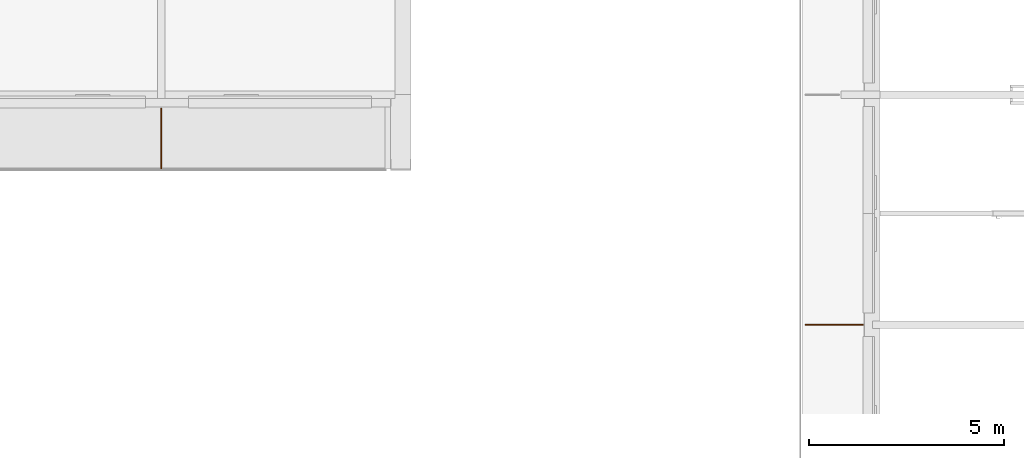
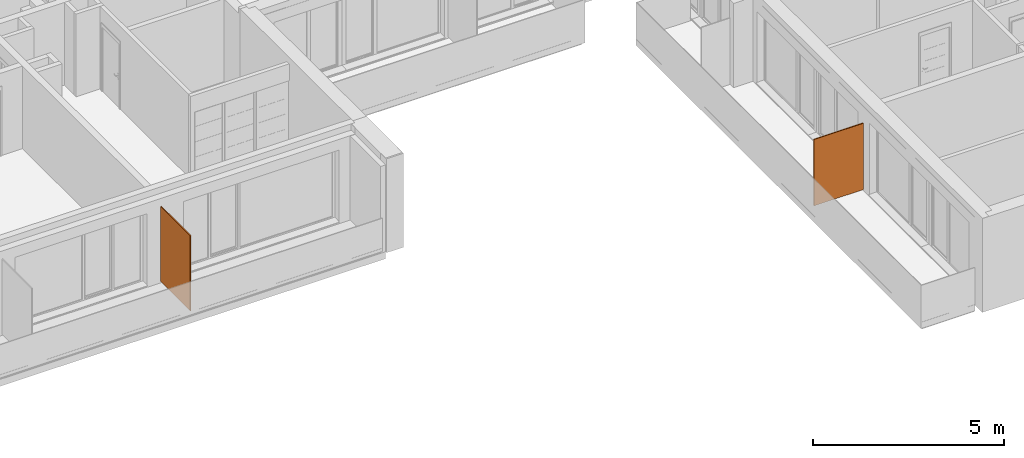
# One storey, part 17 of 66: 2 proxies.
"""IFC2X3 building model written with IfcOpenShell, lengths in millimetres."""

from ifc_helpers import new_model, entity, si_unit, converted_unit, derived_unit, money_unit, direction, frame, origin_with_axes, place, context, subcontext, project, spatial, polyline, outline, extrude, material, type_object, element, save


model = new_model("IFC2X3")

# Units and contexts
model_context = context("Model", 3, precision=0.01, world=origin_with_axes(), true_north=direction((0.34421633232, 0.938890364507)))
body_context = subcontext(model_context, "Body", "Model", "MODEL_VIEW")
ifc_project = project(units=[si_unit("LENGTHUNIT", "METRE", prefix="MILLI"), si_unit("AREAUNIT", "SQUARE_METRE"), si_unit("VOLUMEUNIT", "CUBIC_METRE"), converted_unit("PLANEANGLEUNIT", "DEGREE", entity("IfcPlaneAngleMeasure", 0.0174532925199), si_unit("PLANEANGLEUNIT", "RADIAN"), dimensions=[0, 0, 0, 0, 0, 0, 0]), si_unit("SOLIDANGLEUNIT", "STERADIAN"), money_unit("USD"), converted_unit("TIMEUNIT", "Year", entity("IfcTimeMeasure", 31556926.0), si_unit("TIMEUNIT", "SECOND"), dimensions=[0, 0, 1, 0, 0, 0, 0]), si_unit("MASSUNIT", "GRAM", prefix="KILO"), si_unit("THERMODYNAMICTEMPERATUREUNIT", "DEGREE_CELSIUS"), si_unit("LUMINOUSINTENSITYUNIT", "LUMEN"), si_unit("ENERGYUNIT", "JOULE", prefix="MEGA"), derived_unit("THERMALCONDUCTANCEUNIT", [(si_unit("POWERUNIT", "WATT"), 1), (si_unit("LENGTHUNIT", "METRE"), -1), (si_unit("THERMODYNAMICTEMPERATUREUNIT", "KELVIN"), -1)]), derived_unit("SPECIFICHEATCAPACITYUNIT", [(si_unit("ENERGYUNIT", "JOULE"), 1), (si_unit("MASSUNIT", "GRAM", prefix="KILO"), -1), (si_unit("THERMODYNAMICTEMPERATUREUNIT", "KELVIN"), -1)]), derived_unit("MASSDENSITYUNIT", [(si_unit("MASSUNIT", "GRAM", prefix="KILO"), 1), (si_unit("VOLUMEUNIT", "CUBIC_METRE"), -1)])], contexts=[model_context])

# Site, building, storey
site_placement = place(None, origin_with_axes())
site = spatial("IfcSite", under=ifc_project, at=site_placement, Name="USTRONIE MORSKIE", CompositionType="ELEMENT")
building_placement = place(site_placement, origin_with_axes())
building = spatial("IfcBuilding", under=site, at=building_placement, Name="Budynek", CompositionType="ELEMENT")
storey_placement = place(building_placement, frame((0.0, 0.0, 10000.0), z_axis=(0.0, 0.0, 1.0), x_axis=(1.0, 0.0, 0.0)))
storey = spatial("IfcBuildingStorey", under=building, at=storey_placement, Name="PIĘTRO 3", CompositionType="ELEMENT", Elevation=10000.0)

# Proxies
ifc_material = material(Name="Woda")
building_element_proxy_type = type_object("IfcBuildingElementProxyType", Name="Woda 30", PredefinedType="NOTDEFINED")
proxy_1_placement = place(storey_placement, frame((390217.920919, 720651.199036, 20.0), z_axis=(0.0, 0.0, 1.0), x_axis=(0.0, -1.0, 0.0)))
element("IfcBuildingElementProxy", 1, at=proxy_1_placement, inside=storey, type_object=building_element_proxy_type, material=ifc_material, Name="Œciana-007", context=body_context, shape_type="SweptSolid", body=[
    extrude(outline(polyline([(0.0, -15.0), (1550.0, -15.0), (1550.0, 15.0), (0.0, 15.0), (0.0, -15.0)])), origin_with_axes(), (0.0, 0.0, 1.0), 2400.0),
])
proxy_2_placement = place(storey_placement, frame((408237.884527, 715101.199004, 20.0), z_axis=(0.0, 0.0, 1.0), x_axis=(-0.99999999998, -6.33272493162e-06, 0.0)))
element("IfcBuildingElementProxy", 2, at=proxy_2_placement, inside=storey, type_object=building_element_proxy_type, material=ifc_material, Name="Œciana-007", context=body_context, shape_type="SweptSolid", body=[
    extrude(outline(polyline([(0.0, -14.9999999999), (1490.00000003, -14.9999999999), (1490.00000003, 15.0000000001), (0.0, 15.0000000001), (0.0, -14.9999999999)])), origin_with_axes(), (0.0, 0.0, 1.0), 2120.0),
])

save(model, "model.ifc")
